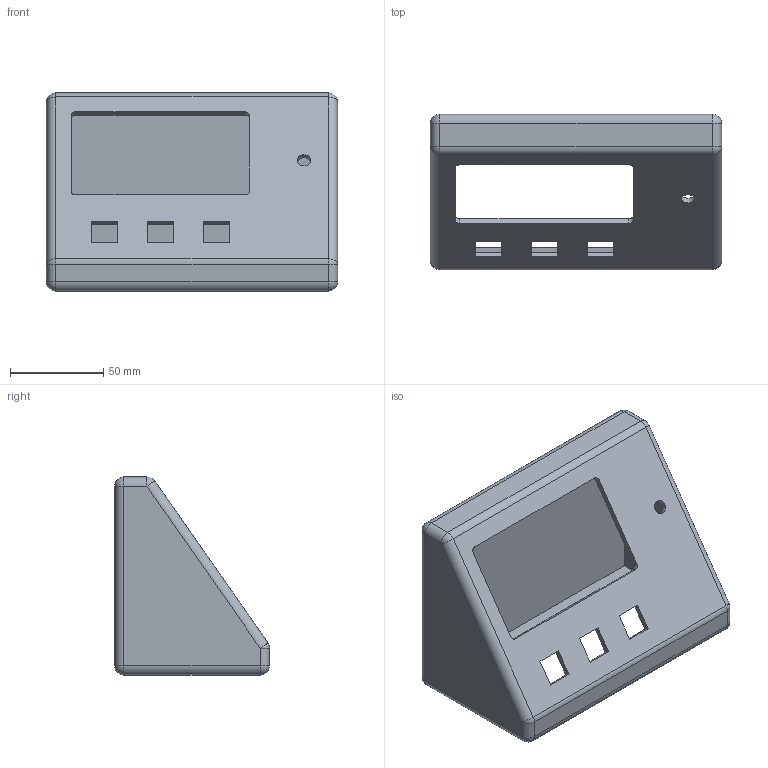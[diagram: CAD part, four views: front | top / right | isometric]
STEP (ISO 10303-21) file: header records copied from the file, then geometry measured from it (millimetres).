
FILE_DESCRIPTION(('Open CASCADE Model'),'2;1');
FILE_NAME('Open CASCADE Shape Model','2026-10-21T00:25:05',('Author'),( 'Open CASCADE'),'Open CASCADE STEP processor 7.9','Open CASCADE 7.9' ,'Unknown');
FILE_SCHEMA(('AUTOMOTIVE_DESIGN { 1 0 10303 214 1 1 1 1 }'));
Length unit declared in the file: millimetre
Products named in the file (1): Open CASCADE STEP translator 7.9 2
Bounding box: 156 x 83.09 x 106.11 mm (x, y, z)
Volume: 134142.6 mm3; surface area: 93669.5 mm2
Topology: 1 solids, 1 shells, 64 faces, 160 edges, 90 vertices
Faces by surface type: plane 34, cylinder 20, sphere 10
Full cylindrical faces by diameter (mm): 7.3 x1
Entity records: 3667 total; most frequent: CARTESIAN_POINT 757, DIRECTION 493, ORIENTED_EDGE 300, PCURVE 300, DEFINITIONAL_REPRESENTATION 300, LINE 278, VECTOR 278, EDGE_CURVE 150
